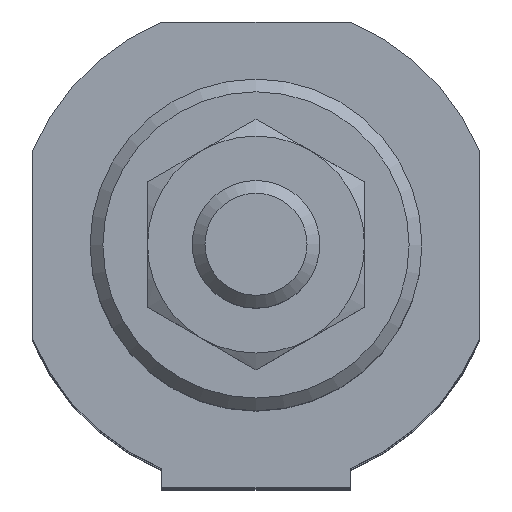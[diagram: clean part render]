
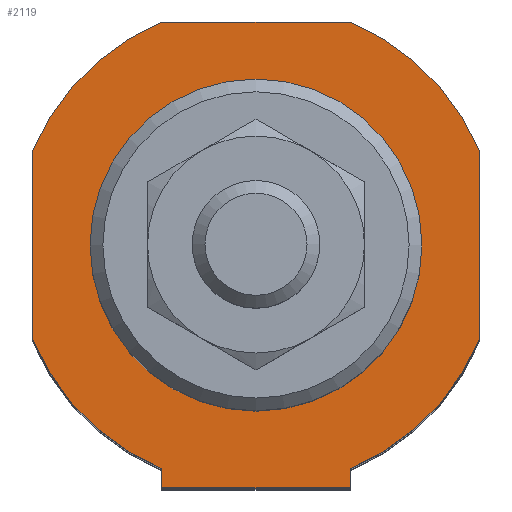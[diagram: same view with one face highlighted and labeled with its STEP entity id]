
A CAD part, top view. The second image highlights one B-rep face of the part: STEP entity #2119.
In plain terms, the highlighted planar face has unit normal (0, 0, 1).
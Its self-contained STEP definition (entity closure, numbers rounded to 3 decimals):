
#1123=CARTESIAN_POINT('',(7.399,-19.0,123.0));
#1124=VERTEX_POINT('',#1123);
#1125=CARTESIAN_POINT('',(-7.399,-19.0,123.0));
#1126=VERTEX_POINT('',#1125);
#1127=CARTESIAN_POINT('',(7.399,-19.0,123.0));
#1128=DIRECTION('',(-1.0,0.0,0.0));
#1129=VECTOR('',#1128,14.799);
#1130=LINE('',#1127,#1129);
#1131=EDGE_CURVE('',#1124,#1126,#1130,.T.);
#1545=CARTESIAN_POINT('',(-7.399,-17.5,123.0));
#1546=VERTEX_POINT('',#1545);
#1560=CARTESIAN_POINT('',(-7.399,-17.5,123.0));
#1561=DIRECTION('',(0.0,-1.0,0.0));
#1562=VECTOR('',#1561,1.5);
#1563=LINE('',#1560,#1562);
#1564=EDGE_CURVE('',#1546,#1126,#1563,.T.);
#1576=CARTESIAN_POINT('',(7.399,-17.5,123.0));
#1577=VERTEX_POINT('',#1576);
#1584=CARTESIAN_POINT('',(7.399,-17.5,123.0));
#1585=DIRECTION('',(0.0,-1.0,0.0));
#1586=VECTOR('',#1585,1.5);
#1587=LINE('',#1584,#1586);
#1588=EDGE_CURVE('',#1577,#1124,#1587,.T.);
#1801=CARTESIAN_POINT('',(13.0,0.,123.0));
#1802=VERTEX_POINT('',#1801);
#1803=CARTESIAN_POINT('',(0.,0.,123.0));
#1804=DIRECTION('',(0.0,0.0,-1.0));
#1805=DIRECTION('',(-1.0,0.0,0.0));
#1806=AXIS2_PLACEMENT_3D('',#1803,#1804,#1805);
#1807=CIRCLE('',#1806,13.0);
#1808=EDGE_CURVE('',#1802,#1802,#1807,.T.);
#2013=CARTESIAN_POINT('',(-17.5,-7.399,123.0));
#2014=VERTEX_POINT('',#2013);
#2015=CARTESIAN_POINT('',(-17.5,7.399,123.0));
#2016=VERTEX_POINT('',#2015);
#2017=CARTESIAN_POINT('',(-17.5,-7.399,123.0));
#2018=DIRECTION('',(0.0,1.0,0.0));
#2019=VECTOR('',#2018,14.799);
#2020=LINE('',#2017,#2019);
#2021=EDGE_CURVE('',#2014,#2016,#2020,.T.);
#2045=CARTESIAN_POINT('',(-7.399,17.5,123.0));
#2046=VERTEX_POINT('',#2045);
#2047=CARTESIAN_POINT('',(0.0,0.0,123.));
#2048=DIRECTION('',(0.0,0.0,-1.0));
#2049=DIRECTION('',(-0.389,0.921,0.0));
#2050=AXIS2_PLACEMENT_3D('',#2047,#2048,#2049);
#2051=CIRCLE('',#2050,19.0);
#2052=EDGE_CURVE('',#2016,#2046,#2051,.T.);
#2065=CARTESIAN_POINT('',(-11.374,11.374,123.0));
#2066=DIRECTION('',(0.0,0.0,1.0));
#2067=DIRECTION('',(1.0,0.0,0.0));
#2068=AXIS2_PLACEMENT_3D('',#2065,#2066,#2067);
#2069=PLANE('',#2068);
#2070=CARTESIAN_POINT('',(7.399,17.5,123.0));
#2071=VERTEX_POINT('',#2070);
#2072=CARTESIAN_POINT('',(-7.399,17.5,123.0));
#2073=DIRECTION('',(1.0,0.0,0.0));
#2074=VECTOR('',#2073,14.799);
#2075=LINE('',#2072,#2074);
#2076=EDGE_CURVE('',#2046,#2071,#2075,.T.);
#2077=ORIENTED_EDGE('',*,*,#2076,.F.);
#2078=ORIENTED_EDGE('',*,*,#2052,.F.);
#2079=ORIENTED_EDGE('',*,*,#2021,.F.);
#2080=CARTESIAN_POINT('',(0.0,0.0,123.));
#2081=DIRECTION('',(0.0,0.0,-1.0));
#2082=DIRECTION('',(-0.921,-0.389,0.0));
#2083=AXIS2_PLACEMENT_3D('',#2080,#2081,#2082);
#2084=CIRCLE('',#2083,19.0);
#2085=EDGE_CURVE('',#1546,#2014,#2084,.T.);
#2086=ORIENTED_EDGE('',*,*,#2085,.F.);
#2087=ORIENTED_EDGE('',*,*,#1564,.T.);
#2088=ORIENTED_EDGE('',*,*,#1131,.F.);
#2089=ORIENTED_EDGE('',*,*,#1588,.F.);
#2090=CARTESIAN_POINT('',(17.5,-7.399,123.0));
#2091=VERTEX_POINT('',#2090);
#2092=CARTESIAN_POINT('',(0.0,0.0,123.));
#2093=DIRECTION('',(0.0,0.0,-1.0));
#2094=DIRECTION('',(0.389,-0.921,0.0));
#2095=AXIS2_PLACEMENT_3D('',#2092,#2093,#2094);
#2096=CIRCLE('',#2095,19.0);
#2097=EDGE_CURVE('',#2091,#1577,#2096,.T.);
#2098=ORIENTED_EDGE('',*,*,#2097,.F.);
#2099=CARTESIAN_POINT('',(17.5,7.399,123.0));
#2100=VERTEX_POINT('',#2099);
#2101=CARTESIAN_POINT('',(17.5,7.399,123.0));
#2102=DIRECTION('',(0.0,-1.0,0.0));
#2103=VECTOR('',#2102,14.799);
#2104=LINE('',#2101,#2103);
#2105=EDGE_CURVE('',#2100,#2091,#2104,.T.);
#2106=ORIENTED_EDGE('',*,*,#2105,.F.);
#2107=CARTESIAN_POINT('',(0.0,0.0,123.));
#2108=DIRECTION('',(0.0,0.0,-1.0));
#2109=DIRECTION('',(0.921,0.389,0.0));
#2110=AXIS2_PLACEMENT_3D('',#2107,#2108,#2109);
#2111=CIRCLE('',#2110,19.0);
#2112=EDGE_CURVE('',#2071,#2100,#2111,.T.);
#2113=ORIENTED_EDGE('',*,*,#2112,.F.);
#2114=EDGE_LOOP('',(#2077,#2078,#2079,#2086,#2087,#2088,#2089,#2098,#2106,#2113));
#2115=FACE_OUTER_BOUND('',#2114,.T.);
#2116=ORIENTED_EDGE('',*,*,#1808,.T.);
#2117=EDGE_LOOP('',(#2116));
#2118=FACE_BOUND('',#2117,.T.);
#2119=ADVANCED_FACE('',(#2115,#2118),#2069,.T.);
